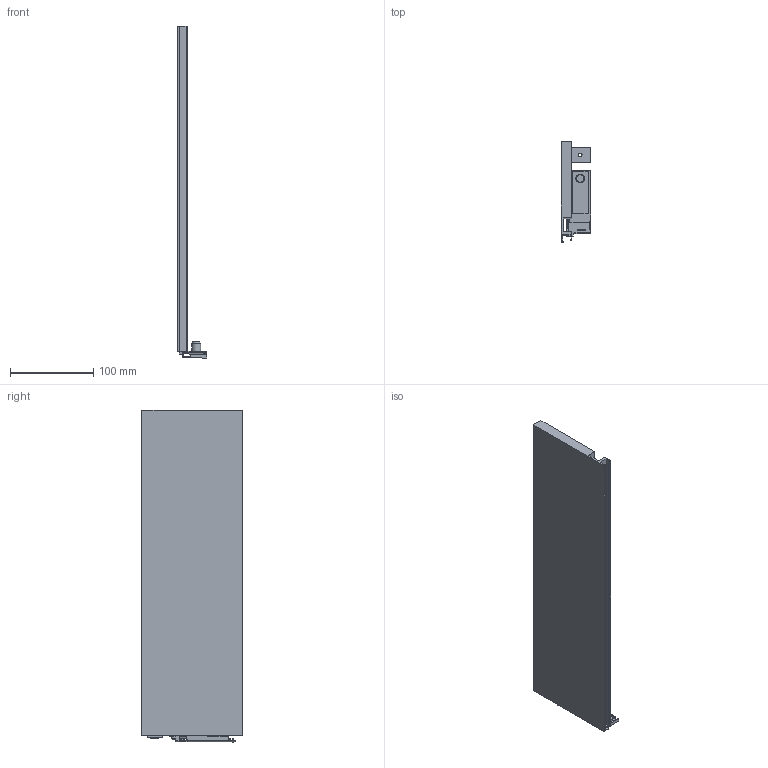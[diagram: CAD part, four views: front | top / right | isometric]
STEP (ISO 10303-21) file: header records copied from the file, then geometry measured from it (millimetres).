
FILE_DESCRIPTION (( 'STEP AP214' ), '1' );
FILE_NAME ('Vionaro_Alu-Zarge_H121_NL400_LI.STEP', '2014-08-18T11:17:55', ( '' ), ( '' ), 'SwSTEP 2.0', 'SolidWorks 2013', '' );
FILE_SCHEMA (( 'AUTOMOTIVE_DESIGN' ));
Length unit declared in the file: millimetre
Products named in the file (1): Vionaro_Alu-Zarge_H121_NL400_LI
Bounding box: 35.61 x 121 x 397.9 mm (x, y, z)
Volume: 519810.4 mm3; surface area: 130743.4 mm2
Topology: 1 solids, 1 shells, 112 faces, 299 edges, 196 vertices
Faces by surface type: plane 88, cylinder 20, cone 4
Entity records: 3491 total; most frequent: CARTESIAN_POINT 614, ORIENTED_EDGE 598, DIRECTION 569, EDGE_CURVE 299, VECTOR 251, LINE 251, VERTEX_POINT 196, AXIS2_PLACEMENT_3D 159
